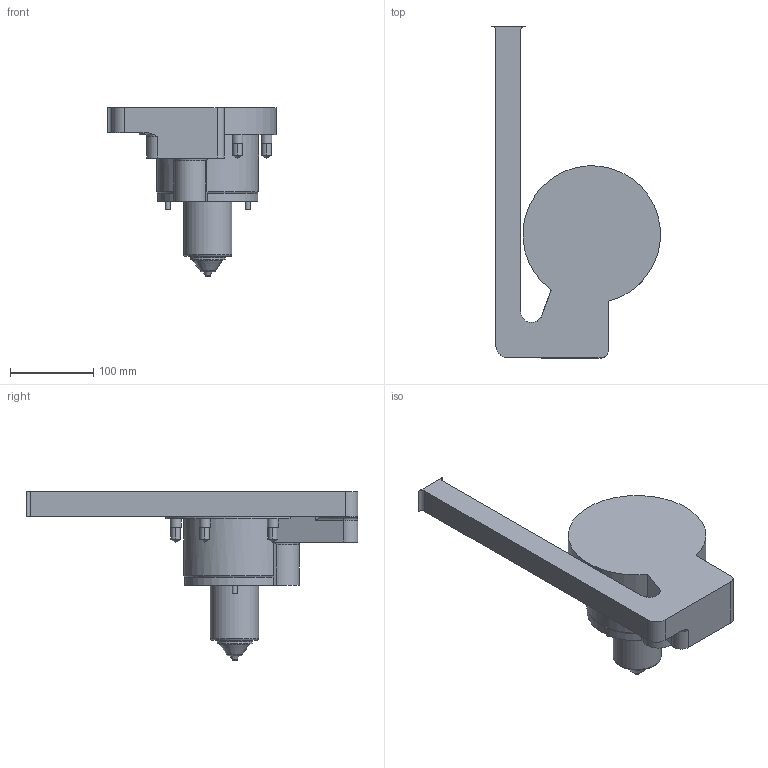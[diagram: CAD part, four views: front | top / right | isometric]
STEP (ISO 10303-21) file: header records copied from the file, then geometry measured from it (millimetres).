
FILE_DESCRIPTION( ( 'STEP AP214' ), '1' );
FILE_NAME( '//Gabi/d on gabi/PROIECTE_YUDO_2009/PROIECTE YUDO 3D/SAS/YUEU09-SAS42VC170_6/YUEU09-SAS42VC170_CUTOUT.step', '2009-03-03T10:23:32', ( ' ' ), ( ' ' ), 'XStep 1.0', ' ', ' ' );
FILE_SCHEMA( ( 'automotive_design' ) );
Length unit declared in the file: millimetre
Products named in the file (1): 1
Bounding box: 202.3 x 398 x 202.5 mm (x, y, z)
Volume: 2642662.4 mm3; surface area: 186391.5 mm2
Topology: 1 solids, 1 shells, 92 faces, 217 edges, 144 vertices
Faces by surface type: plane 41, cylinder 38, cone 9, torus 4
Full cylindrical faces by diameter (mm): 6 x3, 10.5 x1, 11.35 x5, 13 x5, 36 x1, 42 x1, 58 x1
Entity records: 3222 total; most frequent: CARTESIAN_POINT 468, DIRECTION 438, ORIENTED_EDGE 350, AXIS2_PLACEMENT_3D 178, EDGE_CURVE 175, EDGE_LOOP 136, VERTEX_POINT 134, FACE_OUTER_BOUND 111
